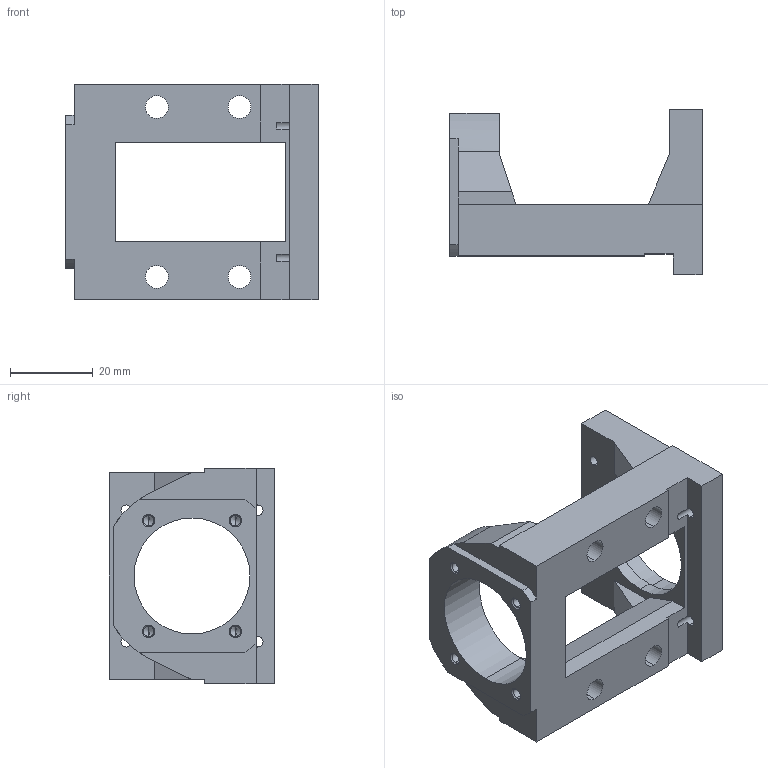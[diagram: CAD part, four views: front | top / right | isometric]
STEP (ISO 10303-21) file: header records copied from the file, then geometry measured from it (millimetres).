
FILE_DESCRIPTION (( 'STEP AP203' ), '1' );
FILE_NAME ('MBL08-A傳動座.STEP', '2017-12-28T06:07:19', ( '' ), ( '' ), 'SwSTEP 2.0', 'SolidWorks 2017', '' );
FILE_SCHEMA (( 'CONFIG_CONTROL_DESIGN' ));
Length unit declared in the file: millimetre
Products named in the file (1): MBL08-A傳動座
Bounding box: 61 x 40 x 52 mm (x, y, z)
Volume: 33553.9 mm3; surface area: 14646.4 mm2
Topology: 1 solids, 1 shells, 119 faces, 316 edges, 196 vertices
Faces by surface type: plane 43, cylinder 42, cone 34
Entity records: 3763 total; most frequent: DIRECTION 660, CARTESIAN_POINT 638, ORIENTED_EDGE 616, EDGE_CURVE 308, AXIS2_PLACEMENT_3D 234, VERTEX_POINT 196, VECTOR 192, LINE 192
